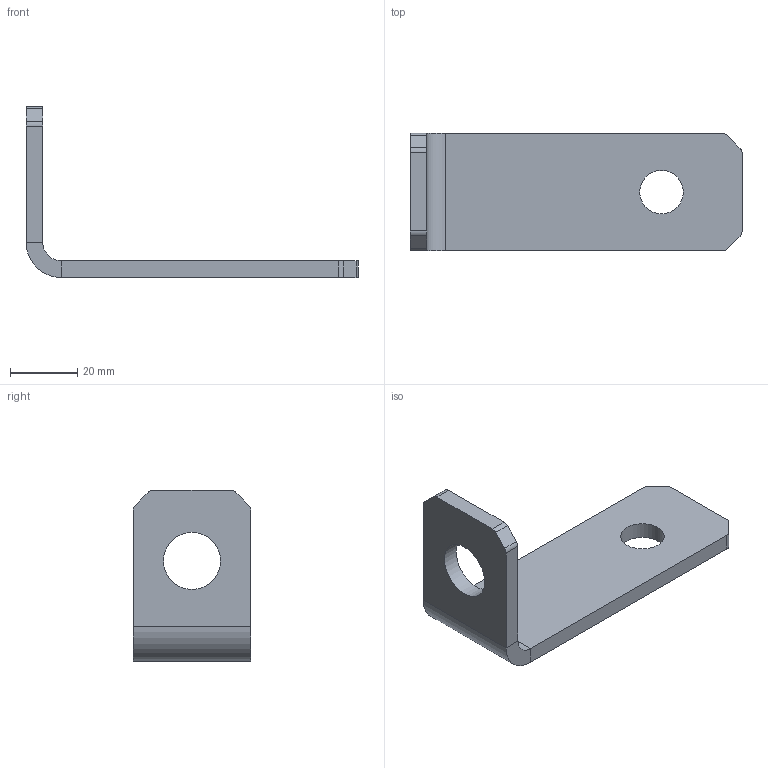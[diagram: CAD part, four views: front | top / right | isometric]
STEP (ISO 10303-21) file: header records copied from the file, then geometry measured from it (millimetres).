
FILE_DESCRIPTION(('STEP AP203'), '1');
FILE_NAME('3712 Êðîíøòåéí äëÿ êðåïëåíèÿ ê ñòåíå', '', ('UNSPECIFIED'), ('UNSPECIFIED'), 'C3D Converter', 'C3D Toolkit', '');
FILE_SCHEMA(('CONFIG_CONTROL_DESIGN'));
Length unit declared in the file: millimetre
Products named in the file (1): 3712
Bounding box: 99 x 35 x 51 mm (x, y, z)
Volume: 22722.1 mm3; surface area: 11263.7 mm2
Topology: 1 solids, 1 shells, 28 faces, 70 edges, 44 vertices
Faces by surface type: plane 16, cylinder 12
Full cylindrical faces by diameter (mm): 13 x1, 17 x1
Entity records: 872 total; most frequent: DIRECTION 150, CARTESIAN_POINT 141, ORIENTED_EDGE 136, EDGE_CURVE 68, AXIS2_PLACEMENT_3D 53, VERTEX_POINT 44, LINE 44, VECTOR 44
